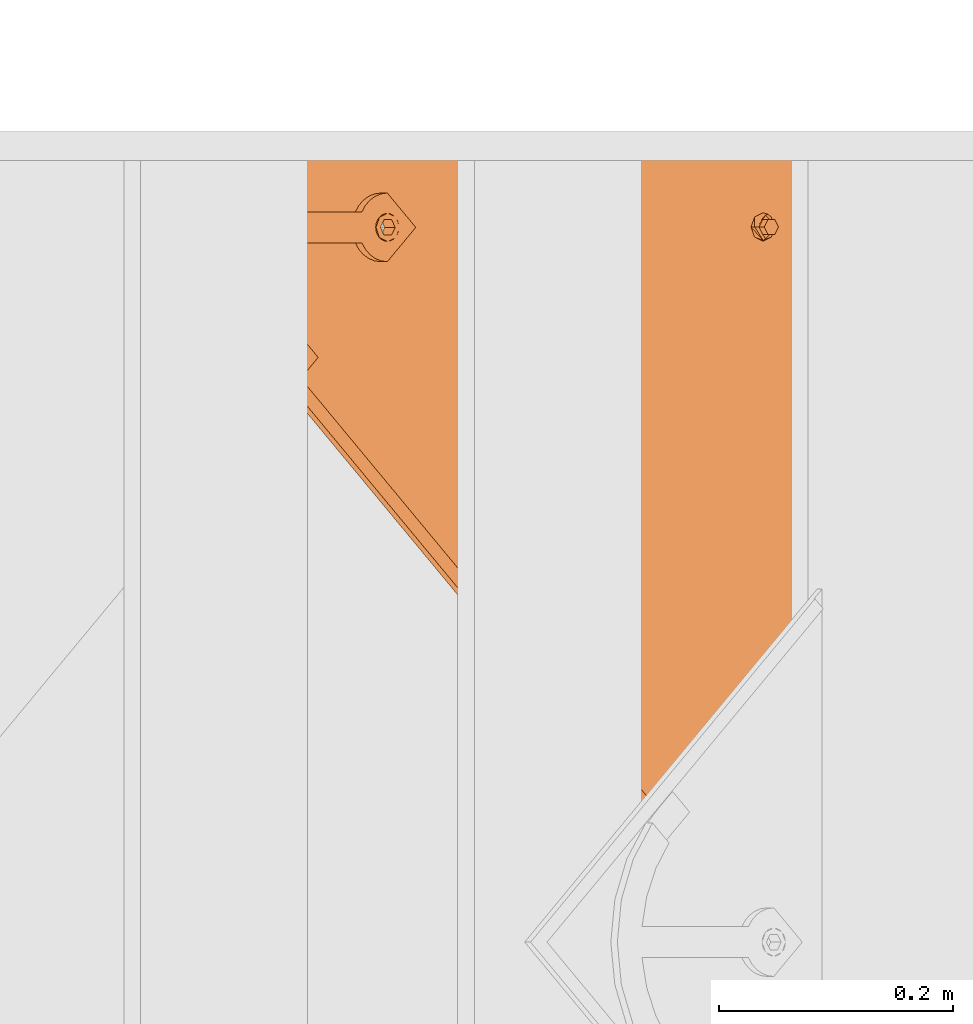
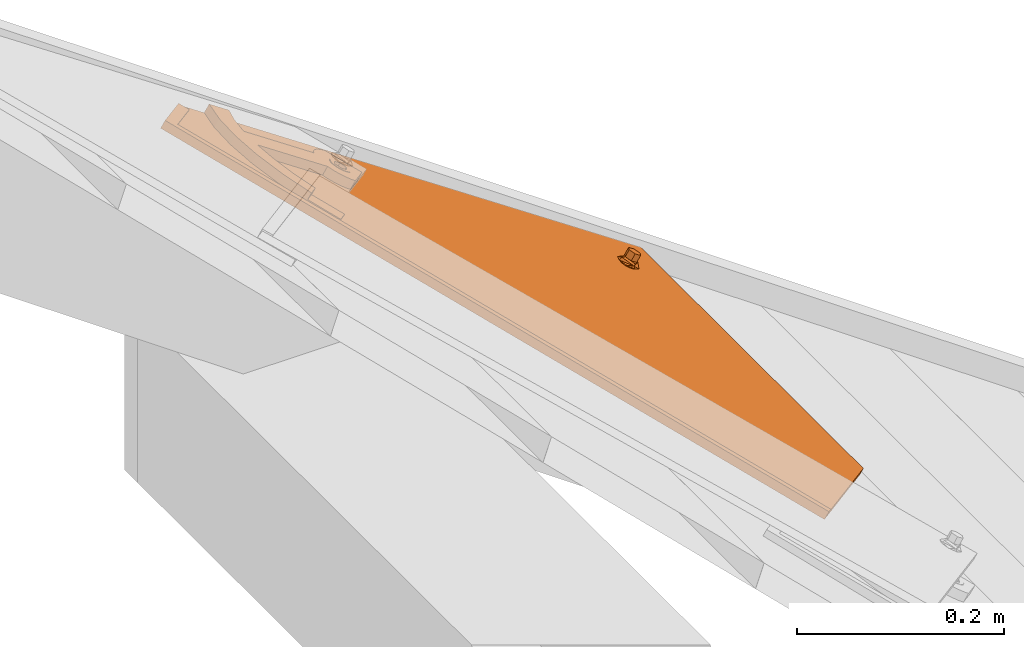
# One storey, part 139 of 151: 1 proxy.
"""IFC2X3 building model written with IfcOpenShell, lengths in millimetres."""

from ifc_helpers import new_model, entity, si_unit, converted_unit, derived_unit, direction, frame, origin, place, context, subcontext, project, spatial, faceted_brep, source, transform, mapped, material, material_list, type_object, type_shapes, element, save


model = new_model("IFC2X3")

# Units and contexts
model_context = context("Model", 3, precision=0.01, world=origin(), true_north=direction((6.12303176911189e-17, 1.0)))
body_context = subcontext(model_context, "Body", "Model", "MODEL_VIEW")
ifc_project = project(units=[si_unit("LENGTHUNIT", "METRE", prefix="MILLI"), si_unit("AREAUNIT", "SQUARE_METRE"), si_unit("VOLUMEUNIT", "CUBIC_METRE"), converted_unit("PLANEANGLEUNIT", "DEGREE", entity("IfcRatioMeasure", 0.0174532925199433), si_unit("PLANEANGLEUNIT", "RADIAN"), dimensions=[0, 0, 0, 0, 0, 0, 0]), si_unit("MASSUNIT", "GRAM", prefix="KILO"), derived_unit("MASSDENSITYUNIT", [(si_unit("MASSUNIT", "GRAM", prefix="KILO"), 1), (si_unit("LENGTHUNIT", "METRE"), -3)]), si_unit("TIMEUNIT", "SECOND"), si_unit("FREQUENCYUNIT", "HERTZ"), si_unit("THERMODYNAMICTEMPERATUREUNIT", "DEGREE_CELSIUS"), derived_unit("THERMALTRANSMITTANCEUNIT", [(si_unit("MASSUNIT", "GRAM", prefix="KILO"), 1), (si_unit("THERMODYNAMICTEMPERATUREUNIT", "KELVIN"), -1), (si_unit("TIMEUNIT", "SECOND"), -3)]), derived_unit("VOLUMETRICFLOWRATEUNIT", [(si_unit("LENGTHUNIT", "METRE"), 3), (si_unit("TIMEUNIT", "SECOND"), -1)]), si_unit("ELECTRICCURRENTUNIT", "AMPERE"), si_unit("ELECTRICVOLTAGEUNIT", "VOLT"), si_unit("POWERUNIT", "WATT"), si_unit("FORCEUNIT", "NEWTON", prefix="KILO"), si_unit("ILLUMINANCEUNIT", "LUX"), si_unit("LUMINOUSFLUXUNIT", "LUMEN"), si_unit("LUMINOUSINTENSITYUNIT", "CANDELA"), derived_unit("USERDEFINED", [(si_unit("MASSUNIT", "GRAM", prefix="KILO"), -1), (si_unit("LENGTHUNIT", "METRE"), -2), (si_unit("TIMEUNIT", "SECOND"), 3), (si_unit("LUMINOUSFLUXUNIT", "LUMEN"), 1)]), derived_unit("LINEARVELOCITYUNIT", [(si_unit("LENGTHUNIT", "METRE"), 1), (si_unit("TIMEUNIT", "SECOND"), -1)]), si_unit("PRESSUREUNIT", "PASCAL"), derived_unit("USERDEFINED", [(si_unit("LENGTHUNIT", "METRE"), -2), (si_unit("MASSUNIT", "GRAM", prefix="KILO"), 1), (si_unit("TIMEUNIT", "SECOND"), -2)])], contexts=[model_context])

# Site, building, storey
site_placement = place(None, origin())
site = spatial("IfcSite", under=ifc_project, at=site_placement, Name="Default", CompositionType="ELEMENT")
building_placement = place(site_placement, origin())
building = spatial("IfcBuilding", under=site, at=building_placement, CompositionType="ELEMENT")
storey_placement = place(building_placement, origin())
storey = spatial("IfcBuildingStorey", under=building, at=storey_placement, Name="Level 1", CompositionType="ELEMENT", Elevation=0.0)

# Proxy
ifc_material_1 = material(Name="Rubber - Sunstyle - Black")
ifc_material_2 = material(Name="Glass - Sunstyle - Tainted Black")
ifc_material_list_1 = material_list([ifc_material_1, ifc_material_2])
ifc_material_list_2 = material_list([ifc_material_1, ifc_material_2])
building_element_proxy_type = type_object("IfcBuildingElementProxyType", Name="Corner Bottom Big Right - Black", PredefinedType="NOTDEFINED", material=ifc_material_list_2)
shared_shape = source(origin(), body_context, "Body", "Brep", [
    faceted_brep([(0.270009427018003, -2.025866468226, -4.01619789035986), (-5.50419340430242, -5.35913660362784, -3.96037390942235), (-5.50419340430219, -4.99082751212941, 18.0314954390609), (0.270009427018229, -1.65755737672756, 17.9756714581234), (-5.50419340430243, -12.0256768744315, -3.84872594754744), (-5.5041934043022, -11.6573677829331, 18.1431434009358), (0.270009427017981, -15.3589470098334, -3.79290196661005), (0.270009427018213, -14.990637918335, 18.1989673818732), (6.04421225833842, -12.0256768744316, -3.84872594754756), (6.04421225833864, -11.6573677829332, 18.1431434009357), (6.04421225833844, -5.35913660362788, -3.96037390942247), (6.04421225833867, -4.99082751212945, 18.0314954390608), (-8.3336947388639, -16.9265954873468, 18.2313898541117), (0.27000942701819, -20.4898667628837, 18.2910657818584), (-11.8974656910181, -8.32409764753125, 18.0873194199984), (-8.33369473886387, 0.278400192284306, 17.9432489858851), (0.270009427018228, 3.84167146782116, 17.8835730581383), (8.87371359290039, 0.278400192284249, 17.9432489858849), (12.4374845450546, -8.32409764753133, 18.0873194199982), (8.87371359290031, -16.9265954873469, 18.2313898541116), (-11.1602134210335, -6.95050198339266, 20.4858706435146), (-9.50050407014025, -8.25322861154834, 22.3189355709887), (0.270009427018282, -0.940007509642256, 22.9603444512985), (0.27000942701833, 0.300490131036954, 22.3799978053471), (0.270009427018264, 2.4580409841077, 21.3706227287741), (-6.05323627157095, -4.59022324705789, 23.0214764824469), (-6.05323627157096, -11.8906547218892, 23.1437405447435), (0.270009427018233, -18.990246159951, 21.7298281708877), (0.270009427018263, -15.5408704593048, 23.2048725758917), (11.2551842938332, -12.0411541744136, 20.3827540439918), (10.3938597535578, -8.25726753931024, 22.077768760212), (6.59325512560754, -4.59022324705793, 23.0214764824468), (6.5932551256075, -11.8906547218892, 23.1437405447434), (-6.05323627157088, -11.7566262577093, 31.1466287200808), (0.270009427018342, -15.4068419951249, 31.207760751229), (0.270009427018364, -8.10641052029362, 31.0854966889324), (-6.05323627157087, -4.456194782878, 31.0243646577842), (6.59325512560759, -11.7566262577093, 31.1466287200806), (6.59325512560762, -4.45619478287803, 31.024364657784), (0.270009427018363, -0.805979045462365, 30.9632326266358), (0.270009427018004, -8.69240673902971, -3.90454992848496)], [[[0, 1, 2, 3]], [[1, 4, 5, 2]], [[4, 6, 7, 5]], [[6, 8, 9, 7]], [[8, 10, 11, 9]], [[10, 0, 3, 11]], [[12, 7, 13]], [[7, 12, 5]], [[14, 5, 12]], [[5, 14, 2]], [[15, 2, 14]], [[3, 2, 15]], [[15, 16, 3]], [[16, 17, 3]], [[11, 3, 17]], [[11, 17, 18]], [[9, 11, 18]], [[18, 19, 9]], [[7, 9, 19]], [[19, 13, 7]], [[15, 20, 16]], [[21, 22, 23, 24]], [[22, 21, 25]], [[20, 14, 12]], [[15, 14, 20]], [[25, 21, 26]], [[20, 24, 16]], [[12, 13, 27]], [[12, 27, 20]], [[21, 28, 26]], [[21, 27, 28]], [[20, 21, 24]], [[20, 27, 21]], [[19, 29, 13]], [[30, 23, 31]], [[30, 28, 27]], [[24, 23, 30]], [[29, 27, 13]], [[19, 18, 29]], [[29, 30, 27]], [[29, 17, 24]], [[24, 17, 16]], [[31, 32, 30]], [[23, 22, 31]], [[28, 30, 32]], [[29, 24, 30]], [[29, 18, 17]], [[33, 34, 35]], [[35, 36, 33]], [[34, 37, 35]], [[38, 35, 37]], [[35, 38, 39]], [[35, 39, 36]], [[40, 6, 4]], [[4, 1, 40]], [[1, 0, 40]], [[40, 8, 6]], [[0, 10, 40]], [[8, 40, 10]], [[22, 25, 36, 39]], [[25, 26, 33, 36]], [[26, 28, 34, 33]], [[28, 32, 37, 34]], [[32, 31, 38, 37]], [[31, 22, 39, 38]]]),
    faceted_brep([(-518.247351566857, 79.9143812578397, 14.9652572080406), (-518.247351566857, 79.9394990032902, 16.4650468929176), (-526.732038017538, 88.4241854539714, 16.3229495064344), (-526.732038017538, 88.399067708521, 14.8231598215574), (-0.00032251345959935, 614.98308737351, 6.00418773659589), (60.1037538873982, 554.895864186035, 7.01049921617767), (51.6190674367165, 546.411177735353, 7.15259660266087), (-0.000322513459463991, 598.016093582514, 6.28834266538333), (-0.000322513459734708, 615.00820511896, 7.50397742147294), (-0.000322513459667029, 598.041211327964, 7.78813235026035), (51.6190674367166, 546.436295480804, 8.65238628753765), (60.1037538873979, 554.920981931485, 8.51028890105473)], [[[0, 1, 2, 3]], [[0, 3, 4, 5, 6, 7]], [[3, 2, 8, 4]], [[2, 1, 9, 10, 11, 8]], [[1, 0, 7, 9]], [[6, 5, 11, 10]], [[4, 8, 11, 5]], [[9, 7, 6, 10]]]),
    faceted_brep([(0.0, 372.774440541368, 20.3195200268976), (0.0, 377.273809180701, 20.2441667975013), (-8.60370416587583, 376.337711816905, 20.2598440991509), (8.60370416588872, 376.337711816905, 20.2598440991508), (6.64022859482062, 381.107009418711, 20.1799702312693), (12.1674751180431, 384.940209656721, 20.1157736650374), (6.64022859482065, 388.773409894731, 20.0515770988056), (8.6037041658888, 393.542707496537, 19.9717032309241), (0.0, 392.606610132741, 19.9873805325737), (0.0, 397.105978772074, 19.9120273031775), (-8.60370416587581, 393.542707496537, 19.9717032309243), (-6.64022859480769, 388.773409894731, 20.0515770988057), (-12.1674751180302, 384.940209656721, 20.1157736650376), (-6.6402285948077, 381.107009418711, 20.1799702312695), (-6.6402282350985, 388.505487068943, 4.05382046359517), (0.0, 392.338687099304, 3.98962390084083), (-6.64022823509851, 380.839087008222, 4.18221358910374), (0.0, 377.005886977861, 4.24641015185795), (6.64022823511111, 380.839087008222, 4.1822135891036), (6.64022823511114, 388.505487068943, 4.05382046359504), (-8.603704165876, 376.069789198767, 4.26208746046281), (0.0, 372.50651792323, 4.32176338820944), (-12.1674751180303, 384.672287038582, 4.11801702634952), (-8.60370416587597, 393.274784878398, 3.97394659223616), (0.0, 396.838056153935, 3.91427066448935), (8.60370416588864, 393.274784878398, 3.97394659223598), (12.1674751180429, 384.672287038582, 4.11801702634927), (8.60370416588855, 376.069789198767, 4.26208746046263)], [[[0, 1, 2]], [[1, 0, 3]], [[3, 4, 1]], [[4, 3, 5]], [[6, 4, 5]], [[5, 7, 6]], [[7, 8, 6]], [[8, 7, 9]], [[8, 9, 10]], [[10, 11, 8]], [[12, 11, 10]], [[2, 13, 12]], [[12, 13, 11]], [[13, 2, 1]], [[8, 11, 14, 15]], [[11, 13, 16, 14]], [[13, 1, 17, 16]], [[1, 4, 18, 17]], [[4, 6, 19, 18]], [[6, 8, 15, 19]], [[20, 17, 21]], [[17, 20, 16]], [[22, 16, 20]], [[14, 16, 22]], [[23, 14, 22]], [[15, 14, 23]], [[23, 24, 15]], [[24, 25, 15]], [[19, 15, 25]], [[19, 25, 26]], [[26, 18, 19]], [[26, 27, 18]], [[17, 18, 27]], [[27, 21, 17]], [[24, 23, 10, 9]], [[10, 23, 22, 12]], [[20, 21, 0, 2]], [[20, 2, 12, 22]], [[21, 27, 3, 0]], [[3, 27, 26, 5]], [[25, 24, 9, 7]], [[25, 7, 5, 26]]]),
    faceted_brep([(-10.3923048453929, 390.78484910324, 9.75895037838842), (-8.48528137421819, 393.269782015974, 9.7173339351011), (-0.00032251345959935, 614.983087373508, 6.0041877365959), (-11.5911099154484, 387.891083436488, 9.8074137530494), (-6.0, 395.176538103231, 9.68540051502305), (-3.10582854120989, 396.37517508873, 9.6653263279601), (60.1037538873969, 554.895864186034, 7.01049921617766), (0.0, 396.784007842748, 9.65847939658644), (3.1058285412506, 396.37517508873, 9.6653263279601), (6.0, 395.176538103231, 9.68540051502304), (8.48528137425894, 393.269782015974, 9.7173339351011), (10.3923048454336, 390.784849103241, 9.75895037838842), (11.5911099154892, 387.891083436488, 9.8074137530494), (12.0, 384.785690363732, 9.8594213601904), (11.5911099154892, 381.680297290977, 9.9114289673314), (60.103753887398, -67.933460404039, 17.4413406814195), (10.3923048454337, 378.786531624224, 9.95989234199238), (6.58173564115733, -3.94243384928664, 16.369650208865), (8.48528137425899, 376.301598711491, 10.0015087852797), (5.31038666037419, -2.28581190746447, 16.3419059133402), (6.0, 374.394842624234, 10.0334422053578), (3.65353241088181, -1.01464118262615, 16.3206169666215), (3.10582854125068, 373.196205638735, 10.0535163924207), (1.72408477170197, -0.215549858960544, 16.3072341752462), (0.0, 372.787372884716, 10.0603633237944), (-0.346467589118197, 0.0570053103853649, 16.3026695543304), (-2.41701994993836, -0.215549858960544, 16.3072341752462), (-3.10582854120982, 373.196205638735, 10.0535163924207), (-4.34646758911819, -1.01464118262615, 16.3206169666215), (-6.0, 374.394842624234, 10.0334422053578), (-6.00332183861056, -2.28581190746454, 16.3419059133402), (-8.48528137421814, 376.301598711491, 10.0015087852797), (-370.355661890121, -67.9334604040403, 17.4413406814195), (-10.3923048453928, 378.786531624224, 9.95989234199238), (-526.732038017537, 88.3990677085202, 14.8231598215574), (-11.5911099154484, 381.680297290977, 9.9114289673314), (-12.0, 384.785690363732, 9.8594213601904), (-7.27467081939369, -3.94243384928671, 16.369650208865), (-8.07387419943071, -5.87161096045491, 16.4019591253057), (-8.34646758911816, -7.94187300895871, 16.4366308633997), (-8.0738741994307, -10.0121350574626, 16.4713026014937), (-7.27467081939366, -11.9413121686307, 16.5036115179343), (-6.00332183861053, -13.5979341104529, 16.5313558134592), (-4.34646758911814, -14.8691048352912, 16.5526447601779), (-2.41701994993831, -15.6681961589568, 16.5660275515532), (7.38093902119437, -5.87161096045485, 16.4019591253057), (7.65353241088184, -7.94187300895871, 16.4366308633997), (7.38093902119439, -10.0121350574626, 16.4713026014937), (6.58173564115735, -11.9413121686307, 16.5036115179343), (5.31038666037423, -13.5979341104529, 16.5313558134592), (3.65353241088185, -14.8691048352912, 16.5526447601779), (1.72408477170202, -15.6681961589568, 16.5660275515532), (-0.346467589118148, -15.9407513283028, 16.570592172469), (-370.355661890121, -68.0590491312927, 9.94239225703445), (-8.0738741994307, -10.1377237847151, 8.97235417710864), (-7.27467081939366, -12.0669008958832, 9.00466309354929), (-8.34646758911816, -8.06746173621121, 8.93768243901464), (-6.00332183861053, -13.7235228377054, 9.03240738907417), (-4.34646758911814, -14.9946935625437, 9.05369633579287), (60.103753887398, -68.0590491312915, 9.94239225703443), (-8.07387419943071, -5.99719968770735, 8.90301070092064), (-7.27467081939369, -4.06802257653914, 8.87070178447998), (-6.00332183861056, -2.41140063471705, 8.8429574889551), (-8.48528137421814, 376.176009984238, 2.50256036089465), (-10.3923048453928, 378.660942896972, 2.46094391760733), (-526.732038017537, 88.2734789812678, 7.32421139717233), (-11.5911099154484, 381.554708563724, 2.41248054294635), (-12.0, 384.66010163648, 2.36047293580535), (-11.5911099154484, 387.765494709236, 2.30846532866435), (-0.00032251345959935, 614.857498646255, -1.49476068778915), (-10.3923048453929, 390.659260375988, 2.26000195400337), (-8.48528137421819, 393.144193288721, 2.21838551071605), (-6.0, 395.050949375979, 2.18645209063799), (-3.10582854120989, 396.249586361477, 2.16637790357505), (60.1037538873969, 554.770275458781, -0.488449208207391), (0.0, 396.658419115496, 2.15953097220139), (3.1058285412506, 396.249586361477, 2.16637790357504), (6.0, 395.050949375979, 2.18645209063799), (8.48528137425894, 393.144193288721, 2.21838551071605), (10.3923048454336, 390.659260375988, 2.26000195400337), (11.5911099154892, 387.765494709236, 2.30846532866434), (12.0, 384.66010163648, 2.36047293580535), (11.5911099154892, 381.554708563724, 2.41248054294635), (-2.41701994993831, -15.7937848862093, 9.06707912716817), (-0.346467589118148, -16.0663400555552, 9.07164374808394), (1.72408477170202, -15.7937848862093, 9.06707912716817), (3.65353241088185, -14.9946935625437, 9.05369633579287), (5.31038666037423, -13.7235228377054, 9.03240738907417), (6.58173564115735, -12.0669008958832, 9.00466309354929), (7.38093902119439, -10.1377237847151, 8.97235417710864), (7.65353241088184, -8.06746173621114, 8.93768243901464), (7.38093902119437, -5.99719968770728, 8.90301070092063), (6.58173564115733, -4.06802257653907, 8.87070178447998), (10.3923048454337, 378.660942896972, 2.46094391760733), (-6.0, 374.269253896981, 2.5344937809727), (-4.34646758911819, -1.14022990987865, 8.8216685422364), (-3.10582854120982, 373.070616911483, 2.55456796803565), (-2.41701994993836, -0.341138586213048, 8.8082857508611), (0.0, 372.661784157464, 2.56141489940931), (-0.346467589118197, -0.0685834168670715, 8.80372112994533), (1.72408477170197, -0.341138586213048, 8.8082857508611), (3.10582854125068, 373.070616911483, 2.55456796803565), (3.65353241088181, -1.14022990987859, 8.8216685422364), (6.0, 374.269253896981, 2.5344937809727), (5.31038666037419, -2.41140063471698, 8.8429574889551), (8.48528137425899, 376.176009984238, 2.50256036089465)], [[[0, 1, 2]], [[3, 0, 2]], [[4, 2, 1]], [[2, 4, 5]], [[6, 2, 5]], [[7, 6, 5]], [[7, 8, 6]], [[8, 9, 6]], [[10, 6, 9]], [[6, 10, 11]], [[6, 11, 12]], [[12, 13, 6]], [[13, 14, 6]], [[6, 14, 15]], [[14, 16, 15]], [[17, 15, 16]], [[18, 17, 16]], [[17, 18, 19]], [[18, 20, 19]], [[21, 19, 20]], [[20, 22, 21]], [[23, 21, 22]], [[24, 23, 22]], [[23, 24, 25]], [[26, 25, 24]], [[24, 27, 26]], [[26, 27, 28]], [[29, 28, 27]], [[28, 29, 30]], [[29, 31, 30]], [[32, 30, 31]], [[33, 32, 31]], [[33, 34, 32]], [[33, 35, 34]], [[35, 36, 34]], [[36, 3, 34]], [[3, 2, 34]], [[30, 32, 37]], [[37, 32, 38]], [[32, 39, 38]], [[39, 32, 40]], [[40, 32, 41]], [[42, 41, 32]], [[42, 32, 43]], [[43, 32, 15]], [[15, 44, 43]], [[17, 45, 15]], [[45, 46, 15]], [[47, 15, 46]], [[47, 48, 15]], [[49, 15, 48]], [[15, 49, 50]], [[50, 51, 15]], [[51, 52, 15]], [[52, 44, 15]], [[53, 54, 55]], [[54, 53, 56]], [[53, 55, 57]], [[57, 58, 53]], [[53, 58, 59]], [[60, 56, 53]], [[61, 60, 53]], [[61, 53, 62]], [[63, 62, 53]], [[64, 63, 53]], [[65, 64, 53]], [[65, 66, 64]], [[66, 65, 67]], [[67, 65, 68]], [[65, 69, 68]], [[70, 68, 69]], [[71, 70, 69]], [[72, 71, 69]], [[69, 73, 72]], [[74, 73, 69]], [[75, 73, 74]], [[76, 75, 74]], [[77, 76, 74]], [[74, 78, 77]], [[78, 74, 79]], [[80, 79, 74]], [[80, 74, 81]], [[82, 81, 74]], [[82, 74, 59]], [[59, 58, 83]], [[84, 59, 83]], [[84, 85, 59]], [[85, 86, 59]], [[87, 59, 86]], [[59, 87, 88]], [[59, 88, 89]], [[89, 90, 59]], [[90, 91, 59]], [[91, 92, 59]], [[92, 93, 59]], [[93, 82, 59]], [[94, 62, 63]], [[94, 95, 62]], [[96, 95, 94]], [[97, 95, 96]], [[96, 98, 97]], [[99, 97, 98]], [[99, 98, 100]], [[101, 100, 98]], [[102, 100, 101]], [[103, 102, 101]], [[104, 102, 103]], [[103, 105, 104]], [[105, 92, 104]], [[105, 93, 92]], [[36, 67, 68, 3]], [[3, 68, 70, 0]], [[4, 1, 71, 72]], [[70, 71, 1, 0]], [[5, 4, 72, 73]], [[75, 7, 5, 73]], [[8, 76, 77, 9]], [[9, 77, 78, 10]], [[12, 11, 79, 80]], [[78, 79, 11, 10]], [[13, 12, 80, 81]], [[8, 7, 75, 76]], [[13, 81, 82, 14]], [[14, 82, 93, 16]], [[20, 18, 105, 103]], [[93, 105, 18, 16]], [[22, 20, 103, 101]], [[98, 24, 22, 101]], [[27, 96, 94, 29]], [[29, 94, 63, 31]], [[35, 33, 64, 66]], [[63, 64, 33, 31]], [[36, 35, 66, 67]], [[27, 24, 98, 96]], [[34, 2, 69, 65]], [[32, 34, 65, 53]], [[15, 32, 53, 59]], [[6, 15, 59, 74]], [[2, 6, 74, 69]], [[39, 56, 60, 38]], [[38, 60, 61, 37]], [[28, 30, 62, 95]], [[62, 30, 37, 61]], [[26, 28, 95, 97]], [[26, 97, 99, 25]], [[25, 99, 100, 23]], [[23, 100, 102, 21]], [[17, 19, 104, 92]], [[104, 19, 21, 102]], [[45, 17, 92, 91]], [[45, 91, 90, 46]], [[46, 90, 89, 47]], [[47, 89, 88, 48]], [[50, 49, 87, 86]], [[87, 49, 48, 88]], [[51, 50, 86, 85]], [[51, 85, 84, 52]], [[52, 84, 83, 44]], [[44, 83, 58, 43]], [[41, 42, 57, 55]], [[57, 42, 43, 58]], [[40, 41, 55, 54]], [[40, 54, 56, 39]]]),
    faceted_brep([(-114.2509690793, 483.839345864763, 10.7008696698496), (-128.946713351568, 469.147722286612, 10.9469178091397), (-111.269043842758, 451.472531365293, 11.2429332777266), (-84.944396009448, 477.793488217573, 10.8021227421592), (-102.027571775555, 494.874268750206, 10.5160621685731), (-108.279973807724, 489.512620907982, 10.6058564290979), (0.0, 355.735286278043, 10.3459433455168), (0.0, 373.122276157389, 10.0547545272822), (3.10582854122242, 373.531108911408, 10.0479075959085), (-3.10582854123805, 373.531108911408, 10.0479075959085), (6.0, 374.729745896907, 10.0278334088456), (8.48528137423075, 376.636501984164, 9.99589998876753), (29.3894280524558, 385.120593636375, 9.85381256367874), (-6.0, 374.729745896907, 10.0278334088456), (-8.4852813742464, 376.636501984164, 9.99589998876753), (-29.3894280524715, 385.120593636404, 9.85381256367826), (-10.3923048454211, 379.121434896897, 9.95428354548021), (-11.5911099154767, 382.01520056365, 9.90582017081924), (-12.0, 385.120593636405, 9.85381256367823), (-28.6795527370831, 391.540108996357, 9.74630165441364), (-11.5911099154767, 388.225986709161, 9.80180495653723), (-26.5842195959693, 397.649509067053, 9.64398440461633), (-10.3923048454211, 391.119752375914, 9.75334158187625), (-23.204650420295, 403.153659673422, 9.55180357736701), (-8.48528137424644, 393.604685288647, 9.71172513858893), (-18.704106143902, 407.786665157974, 9.47421226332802), (-6.0, 395.511441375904, 9.67979171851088), (-13.3000000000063, 411.324713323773, 9.41495875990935), (-3.10582854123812, 396.710078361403, 9.65971753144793), (0.0, 397.118911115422, 9.65287060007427), (13.2999999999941, 411.324713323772, 9.41495875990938), (-13.3000000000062, 505.643535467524, 7.83535317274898), (13.2999999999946, 505.643535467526, 7.83535317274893), (-7.21723712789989, 530.953901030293, 7.41146752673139), (-41.1626974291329, 525.784666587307, 7.49803934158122), (-38.7697427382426, 500.828655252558, 7.91599043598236), (-73.2491712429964, 513.560140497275, 7.70276973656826), (-62.9243331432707, 491.42502143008, 8.07347790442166), (-84.9431983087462, 477.752822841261, 8.30245321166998), (-102.027571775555, 494.832405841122, 8.01641269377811), (-108.279973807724, 489.470757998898, 8.10620695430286), (-114.2509690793, 483.79748295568, 8.20122019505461), (-111.269043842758, 451.430668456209, 8.74328380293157), (-128.946713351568, 469.105859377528, 8.44726833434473), (27.0541674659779, 528.834391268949, 7.44696404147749), (37.2599857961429, 501.252149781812, 7.90889795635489), (60.1037538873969, 519.521858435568, 7.60292579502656), (60.1037538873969, 492.795625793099, 8.05052369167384), (3.10582854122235, 396.710078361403, 9.65971753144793), (6.0, 395.511441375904, 9.67979171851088), (18.7041061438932, 407.786665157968, 9.47421226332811), (8.48528137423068, 393.604685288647, 9.71172513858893), (23.2046504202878, 403.153659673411, 9.55180357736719), (10.3923048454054, 391.119752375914, 9.75334158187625), (26.5842195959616, 397.649509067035, 9.64398440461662), (11.591109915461, 388.225986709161, 9.80180495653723), (28.6795527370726, 391.540108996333, 9.74630165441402), (12.0, 385.120593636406, 9.85381256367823), (11.591109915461, 382.01520056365, 9.90582017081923), (10.3923048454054, 379.121434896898, 9.95428354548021), (-38.7697427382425, 500.996106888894, 17.9145883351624), (-41.1626974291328, 525.952118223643, 17.4966372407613), (-73.2491712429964, 513.727592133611, 17.7013676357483), (-62.9243331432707, 491.592473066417, 18.0720758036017), (-13.3000000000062, 505.810987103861, 17.833951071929), (-7.21723712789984, 531.121352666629, 17.4100654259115), (13.2999999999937, 505.810987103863, 17.833951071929), (-13.3000000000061, 411.49216496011, 19.4135566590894), (13.2999999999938, 411.492164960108, 19.4135566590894), (0.0, 397.286362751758, 19.6514684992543), (-3.10582854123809, 396.877529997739, 19.658315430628), (-6.0, 395.678893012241, 19.6783896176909), (-18.7041061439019, 407.954116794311, 19.4728101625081), (-8.48528137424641, 393.772136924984, 19.710323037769), (-23.2046504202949, 403.321111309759, 19.5504014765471), (-10.3923048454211, 391.28720401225, 19.7519394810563), (-26.5842195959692, 397.816960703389, 19.6425823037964), (-11.5911099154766, 388.393438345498, 19.8004028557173), (-28.6795527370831, 391.707560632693, 19.7448995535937), (-12.0, 385.288045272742, 19.8524104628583), (-29.3894280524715, 385.28804527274, 19.8524104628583), (-11.5911099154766, 382.182652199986, 19.9044180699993), (-10.3923048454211, 379.288886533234, 19.9528814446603), (-8.48528137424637, 376.803953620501, 19.9944978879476), (0.0, 355.902737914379, 20.3445412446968), (-6.0, 374.897197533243, 20.0264313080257), (-3.10582854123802, 373.698560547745, 20.0465054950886), (0.0, 373.289727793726, 20.0533524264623), (3.10582854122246, 373.698560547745, 20.0465054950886), (6.0, 374.897197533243, 20.0264313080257), (8.48528137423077, 376.803953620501, 19.9944978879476), (29.3894280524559, 385.288045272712, 19.8524104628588), (10.3923048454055, 379.288886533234, 19.9528814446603), (11.591109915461, 382.182652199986, 19.9044180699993), (12.0, 385.288045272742, 19.8524104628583), (28.6795527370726, 391.70756063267, 19.7448995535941), (11.591109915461, 388.393438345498, 19.8004028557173), (26.5842195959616, 397.816960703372, 19.6425823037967), (10.3923048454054, 391.28720401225, 19.7519394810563), (23.2046504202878, 403.321111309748, 19.5504014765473), (8.48528137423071, 393.772136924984, 19.710323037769), (18.7041061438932, 407.954116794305, 19.4728101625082), (6.0, 395.678893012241, 19.6783896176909), (3.10582854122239, 396.877529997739, 19.658315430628), (27.0541674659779, 529.001842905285, 17.4455619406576), (37.259985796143, 501.419601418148, 17.907495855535), (60.1037538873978, 519.689310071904, 17.6015236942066), (60.1037538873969, 492.963077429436, 18.0491215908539), (-84.9443960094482, 477.919076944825, 18.3010711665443), (-102.027571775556, 494.999857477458, 18.0150105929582)], [[[0, 1, 2, 3, 4, 5]], [[6, 7, 8]], [[7, 6, 9]], [[6, 8, 10]], [[10, 11, 6]], [[6, 11, 12]], [[13, 9, 6]], [[14, 13, 6]], [[14, 6, 15]], [[15, 16, 14]], [[16, 15, 17]], [[17, 15, 18]], [[19, 18, 15]], [[20, 18, 19]], [[19, 21, 20]], [[20, 21, 22]], [[23, 22, 21]], [[23, 24, 22]], [[23, 25, 24]], [[25, 26, 24]], [[26, 25, 27]], [[28, 26, 27]], [[27, 29, 28]], [[30, 29, 27]], [[30, 27, 31]], [[30, 31, 32]], [[31, 33, 32]], [[33, 31, 34]], [[35, 34, 31]], [[34, 35, 36]], [[37, 36, 35]], [[37, 38, 36]], [[36, 38, 39]], [[40, 39, 38]], [[40, 38, 41]], [[38, 42, 41]], [[42, 43, 41]], [[32, 33, 44]], [[44, 45, 32]], [[45, 44, 46]], [[46, 47, 45]], [[48, 29, 30]], [[30, 49, 48]], [[49, 30, 50]], [[50, 51, 49]], [[50, 52, 51]], [[51, 52, 53]], [[54, 53, 52]], [[54, 55, 53]], [[56, 55, 54]], [[57, 55, 56]], [[12, 57, 56]], [[58, 57, 12]], [[12, 11, 59]], [[58, 12, 59]], [[1, 0, 41, 43]], [[2, 1, 43, 42]], [[4, 39, 40, 5]], [[40, 41, 0, 5]], [[3, 2, 42, 38]], [[60, 61, 62]], [[63, 60, 62]], [[64, 61, 60]], [[61, 64, 65]], [[66, 65, 64]], [[66, 64, 67]], [[66, 67, 68]], [[68, 67, 69]], [[67, 70, 69]], [[71, 70, 67]], [[71, 67, 72]], [[72, 73, 71]], [[73, 72, 74]], [[73, 74, 75]], [[74, 76, 75]], [[75, 76, 77]], [[78, 77, 76]], [[78, 79, 77]], [[78, 80, 79]], [[79, 80, 81]], [[82, 81, 80]], [[83, 82, 80]], [[83, 80, 84]], [[85, 83, 84]], [[86, 85, 84]], [[87, 86, 84]], [[87, 84, 88]], [[89, 88, 84]], [[89, 84, 90]], [[91, 90, 84]], [[92, 90, 91]], [[91, 93, 92]], [[93, 91, 94]], [[95, 94, 91]], [[95, 96, 94]], [[95, 97, 96]], [[96, 97, 98]], [[99, 98, 97]], [[98, 99, 100]], [[100, 99, 101]], [[101, 68, 102]], [[100, 101, 102]], [[102, 68, 103]], [[103, 68, 69]], [[66, 104, 65]], [[105, 104, 66]], [[105, 106, 104]], [[106, 105, 107]], [[108, 63, 62]], [[62, 109, 108]], [[66, 68, 30, 32]], [[95, 91, 12, 56]], [[97, 95, 56, 54]], [[54, 52, 99, 97]], [[101, 99, 52, 50]], [[68, 101, 50, 30]], [[91, 84, 6, 12]], [[84, 80, 15, 6]], [[72, 67, 27, 25]], [[74, 72, 25, 23]], [[23, 21, 76, 74]], [[78, 76, 21, 19]], [[80, 78, 19, 15]], [[67, 64, 31, 27]], [[104, 106, 46, 44]], [[65, 104, 44, 33]], [[33, 34, 61, 65]], [[62, 61, 34, 36]], [[4, 109, 62, 36, 39]], [[79, 18, 20, 77]], [[77, 20, 22, 75]], [[71, 73, 24, 26]], [[22, 24, 73, 75]], [[70, 71, 26, 28]], [[29, 69, 70, 28]], [[103, 48, 49, 102]], [[102, 49, 51, 100]], [[96, 98, 53, 55]], [[51, 53, 98, 100]], [[94, 96, 55, 57]], [[103, 69, 29, 48]], [[94, 57, 58, 93]], [[93, 58, 59, 92]], [[89, 90, 11, 10]], [[59, 11, 90, 92]], [[88, 89, 10, 8]], [[7, 87, 88, 8]], [[86, 9, 13, 85]], [[85, 13, 14, 83]], [[81, 82, 16, 17]], [[14, 16, 82, 83]], [[79, 81, 17, 18]], [[86, 87, 7, 9]], [[108, 109, 4, 3]], [[32, 45, 105, 66]], [[47, 107, 105, 45]], [[3, 37, 63, 108]], [[3, 38, 37]], [[35, 31, 64, 60]], [[37, 35, 60, 63]], [[106, 107, 47, 46]]]),
])
type_shapes(building_element_proxy_type, [shared_shape])
proxy_placement = place(storey_placement, frame((4507.34131311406, 3868.42811885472, 559.694128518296), z_axis=(0.573576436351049, 0.0, 0.81915204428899), x_axis=(0.0, 1.0, 0.0)))
element("IfcBuildingElementProxy", 1, at=proxy_placement, inside=storey, type_object=building_element_proxy_type, material=ifc_material_list_1, Name="Roofing_Panels_SunStyle_Tile_Corner-Bottom-Big-Right:Corner Bottom Big Right - Black", ObjectType="Roofing_Panels_SunStyle_Tile_Corner-Bottom-Big-Right:Corner Bottom Big Right - Black", context=body_context, shape_type="MappedRepresentation", body=[
    mapped(shared_shape, transform((0.0, 0.0, 0.0), scale=1.0)),
])

save(model, "model.ifc")
